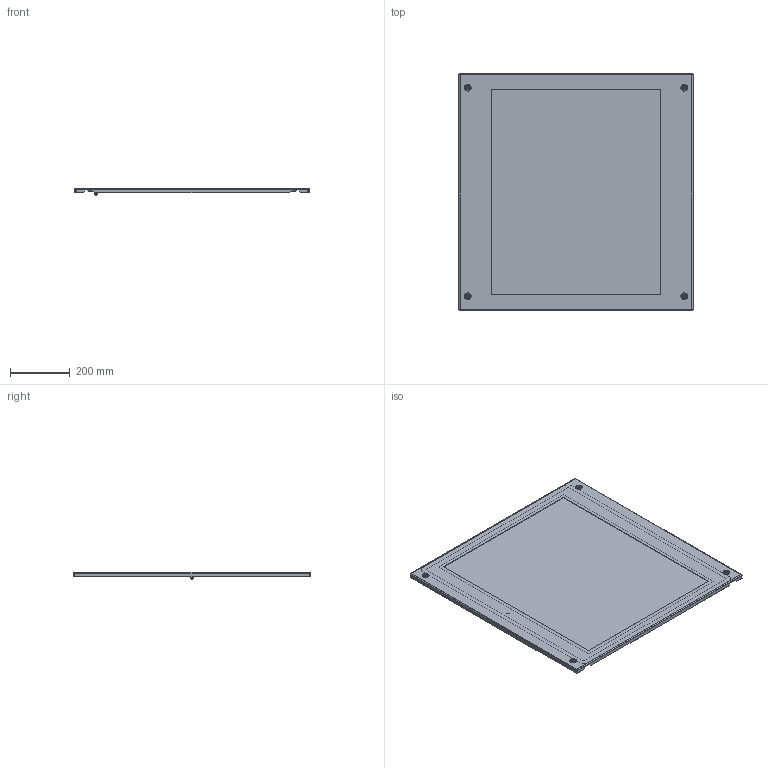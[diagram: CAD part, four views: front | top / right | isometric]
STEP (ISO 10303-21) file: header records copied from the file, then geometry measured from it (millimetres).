
FILE_DESCRIPTION (( 'STEP AP203' ), '1' );
FILE_NAME ('DP 80.80 V Ïàíåëü ñåêöèîííàÿ îáçîðíàÿ.STEP', '2014-06-30T08:30:55', ( 'System' ), ( '' ), 'SwSTEP 2.0', 'SolidWorks 2012', '' );
FILE_SCHEMA (( 'CONFIG_CONTROL_DESIGN' ));
Length unit declared in the file: millimetre
Products named in the file (1): DP 80.80 V Ïàíåëü ñåêöèîííàÿ îáçîðíàÿ
Bounding box: 785 x 794 x 26 mm (x, y, z)
Volume: 2527033.1 mm3; surface area: 1462308.1 mm2
Topology: 4 solids, 4 shells, 175 faces, 398 edges, 238 vertices
Faces by surface type: plane 61, cylinder 42, torus 40, cone 24, sphere 8
Entity records: 4953 total; most frequent: DIRECTION 948, CARTESIAN_POINT 804, ORIENTED_EDGE 780, EDGE_CURVE 390, AXIS2_PLACEMENT_3D 382, VERTEX_POINT 238, CIRCLE 206, EDGE_LOOP 200
